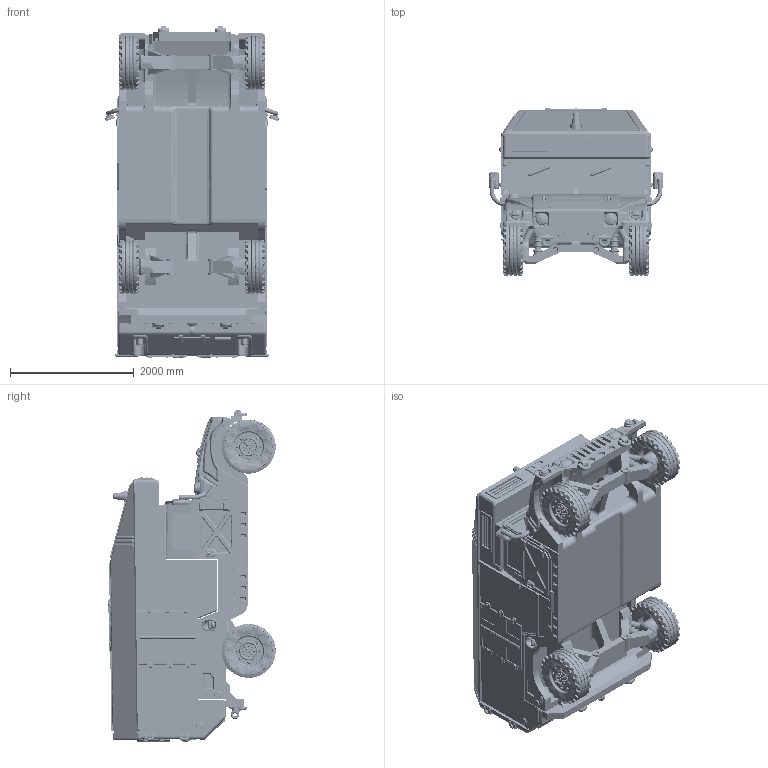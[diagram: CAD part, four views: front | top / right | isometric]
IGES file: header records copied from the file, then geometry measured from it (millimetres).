
Start section: SolidWorks IGES file using analytic representation for surfaces
Global section: file name: C:\Users\DocCAD\Desktop\Hummers\Humvee ambulance\Humvee ambulance.IGS; native system: SolidWorks 2015; preprocessor: SolidWorks 2015; author: DocCAD; date: 171223.163536; units: millimetre
Bounding box: 2808.81 x 2705.73 x 5368.1 mm (x, y, z)
Volume: 6633679060.3 mm3; surface area: 122160717.9 mm2
Topology: 8 solids, 8 shells, 4956 faces, 12997 edges, 8016 vertices
Faces by surface type: revolution 2301, plane 2227, bspline 428
